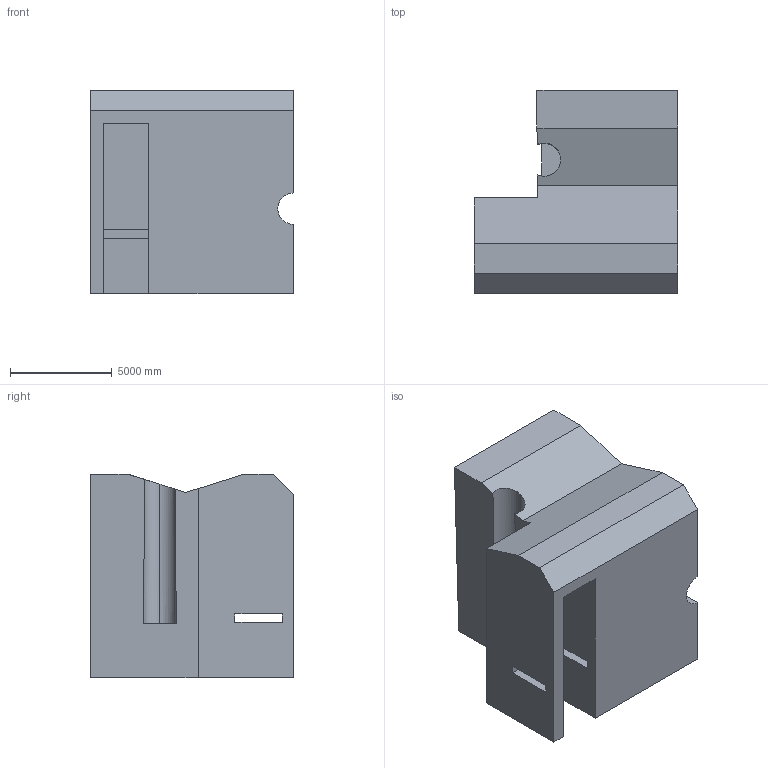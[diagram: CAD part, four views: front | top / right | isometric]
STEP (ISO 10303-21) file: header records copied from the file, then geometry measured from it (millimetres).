
FILE_DESCRIPTION (( 'STEP AP203' ), '1' );
FILE_NAME ('169.STEP', '2022-09-06T13:30:54', ( 'user' ), ( '' ), 'SwSTEP 2.0', 'SolidWorks 2021', '' );
FILE_SCHEMA (( 'CONFIG_CONTROL_DESIGN' ));
Length unit declared in the file: centimetre
Products named in the file (1): 169
Bounding box: 10000 x 10000 x 10000 mm (x, y, z)
Volume: 725056771544.6 mm3; surface area: 656793234 mm2
Topology: 1 solids, 1 shells, 27 faces, 81 edges, 54 vertices
Faces by surface type: plane 24, cylinder 3
Entity records: 984 total; most frequent: CARTESIAN_POINT 175, ORIENTED_EDGE 162, DIRECTION 137, EDGE_CURVE 81, VECTOR 73, LINE 73, VERTEX_POINT 54, AXIS2_PLACEMENT_3D 32
